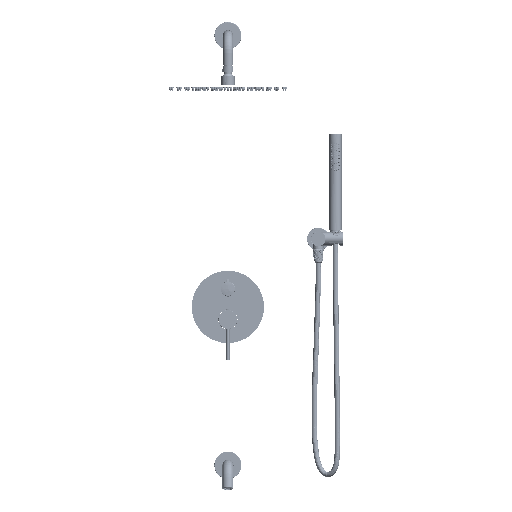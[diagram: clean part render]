
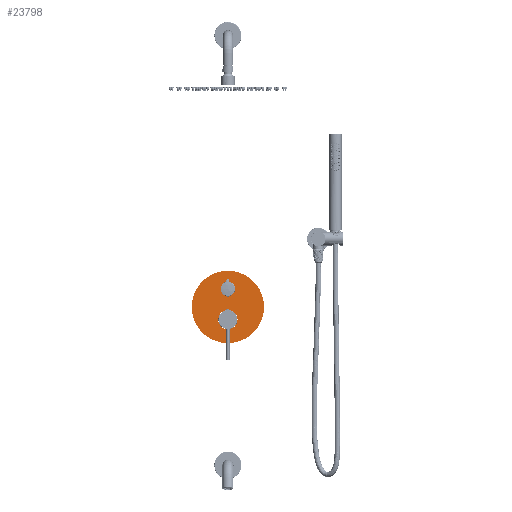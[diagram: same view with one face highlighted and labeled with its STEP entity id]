
A CAD part, top view. The second image highlights one B-rep face of the part: STEP entity #23798.
In plain terms, the highlighted planar face has unit normal (0, 0, 1) as drawn and (0, 1, 0) by its records, which use the part's own axes.
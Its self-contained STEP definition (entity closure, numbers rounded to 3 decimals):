
#23655=CARTESIAN_POINT('',(0.,2.5,0.));
#23656=DIRECTION('',(0.,-1.,0.));
#23657=DIRECTION('',(-1.,0.,0.));
#23658=AXIS2_PLACEMENT_3D('',#23655,#23656,#23657);
#23660=CARTESIAN_POINT('',(0.,2.5,0.));
#23661=DIRECTION('',(0.,-1.,0.));
#23662=DIRECTION('',(1.,0.,0.));
#23663=AXIS2_PLACEMENT_3D('',#23660,#23661,#23662);
#23665=CARTESIAN_POINT('',(0.,2.5,28.));
#23666=DIRECTION('',(0.,1.,0.));
#23667=DIRECTION('',(-1.,0.,0.));
#23668=AXIS2_PLACEMENT_3D('',#23665,#23666,#23667);
#23670=CARTESIAN_POINT('',(0.,2.5,28.));
#23671=DIRECTION('',(0.,1.,0.));
#23672=DIRECTION('',(1.,0.,0.));
#23673=AXIS2_PLACEMENT_3D('',#23670,#23671,#23672);
#23675=CARTESIAN_POINT('',(0.,2.5,-40.));
#23676=DIRECTION('',(0.,1.,0.));
#23677=DIRECTION('',(-1.,0.,0.));
#23678=AXIS2_PLACEMENT_3D('',#23675,#23676,#23677);
#23680=CARTESIAN_POINT('',(0.,2.5,-40.));
#23681=DIRECTION('',(0.,1.,0.));
#23682=DIRECTION('',(1.,0.,0.));
#23683=AXIS2_PLACEMENT_3D('',#23680,#23681,#23682);
#23713=CARTESIAN_POINT('',(10.5,2.5,-40.));
#23714=VERTEX_POINT('',#23713);
#23715=CARTESIAN_POINT('',(-10.5,2.5,-40.));
#23716=VERTEX_POINT('',#23715);
#23717=CARTESIAN_POINT('',(-80.,2.5,0.));
#23718=CARTESIAN_POINT('',(80.,2.5,0.));
#23719=VERTEX_POINT('',#23717);
#23720=VERTEX_POINT('',#23718);
#23721=CARTESIAN_POINT('',(-21.25,2.5,28.));
#23722=CARTESIAN_POINT('',(21.25,2.5,28.));
#23723=VERTEX_POINT('',#23721);
#23724=VERTEX_POINT('',#23722);
#23777=CARTESIAN_POINT('',(0.,2.5,0.));
#23778=DIRECTION('',(0.,1.,0.));
#23779=DIRECTION('',(1.,0.,0.));
#23780=AXIS2_PLACEMENT_3D('',#23777,#23778,#23779);
#23781=PLANE('',#23780);
#23783=ORIENTED_EDGE('',*,*,#23782,.T.);
#23785=ORIENTED_EDGE('',*,*,#23784,.T.);
#23786=EDGE_LOOP('',(#23783,#23785));
#23787=FACE_OUTER_BOUND('',#23786,.F.);
#23788=ORIENTED_EDGE('',*,*,#23757,.T.);
#23789=ORIENTED_EDGE('',*,*,#23771,.T.);
#23790=EDGE_LOOP('',(#23788,#23789));
#23791=FACE_BOUND('',#23790,.F.);
#23793=ORIENTED_EDGE('',*,*,#23792,.T.);
#23795=ORIENTED_EDGE('',*,*,#23794,.T.);
#23796=EDGE_LOOP('',(#23793,#23795));
#23797=FACE_BOUND('',#23796,.F.);
#23659=CIRCLE('',#23658,80.);
#23664=CIRCLE('',#23663,80.);
#23669=CIRCLE('',#23668,21.25);
#23674=CIRCLE('',#23673,21.25);
#23679=CIRCLE('',#23678,10.5);
#23684=CIRCLE('',#23683,10.5);
#23757=EDGE_CURVE('',#23723,#23724,#23669,.T.);
#23771=EDGE_CURVE('',#23724,#23723,#23674,.T.);
#23782=EDGE_CURVE('',#23719,#23720,#23659,.T.);
#23784=EDGE_CURVE('',#23720,#23719,#23664,.T.);
#23792=EDGE_CURVE('',#23716,#23714,#23679,.T.);
#23794=EDGE_CURVE('',#23714,#23716,#23684,.T.);
#23798=ADVANCED_FACE('',(#23787,#23791,#23797),#23781,.T.);
